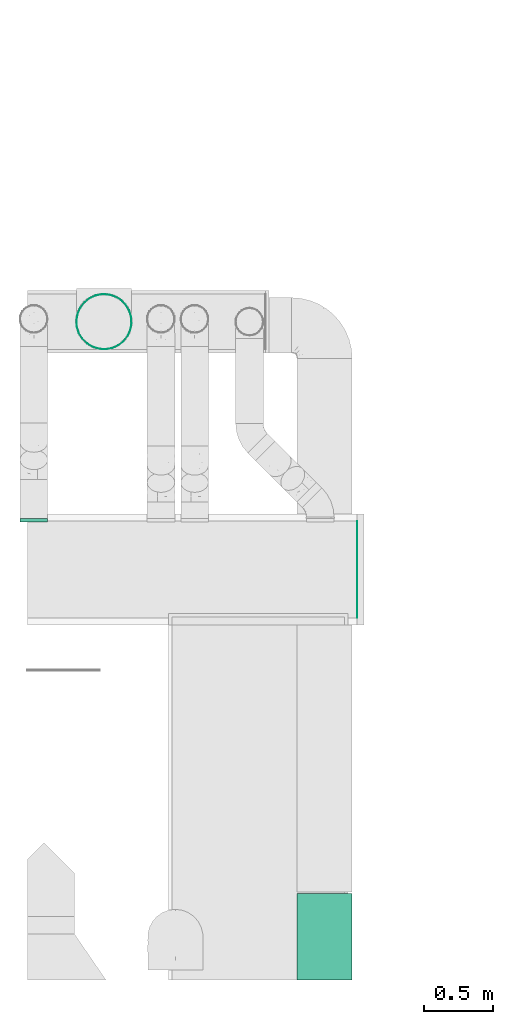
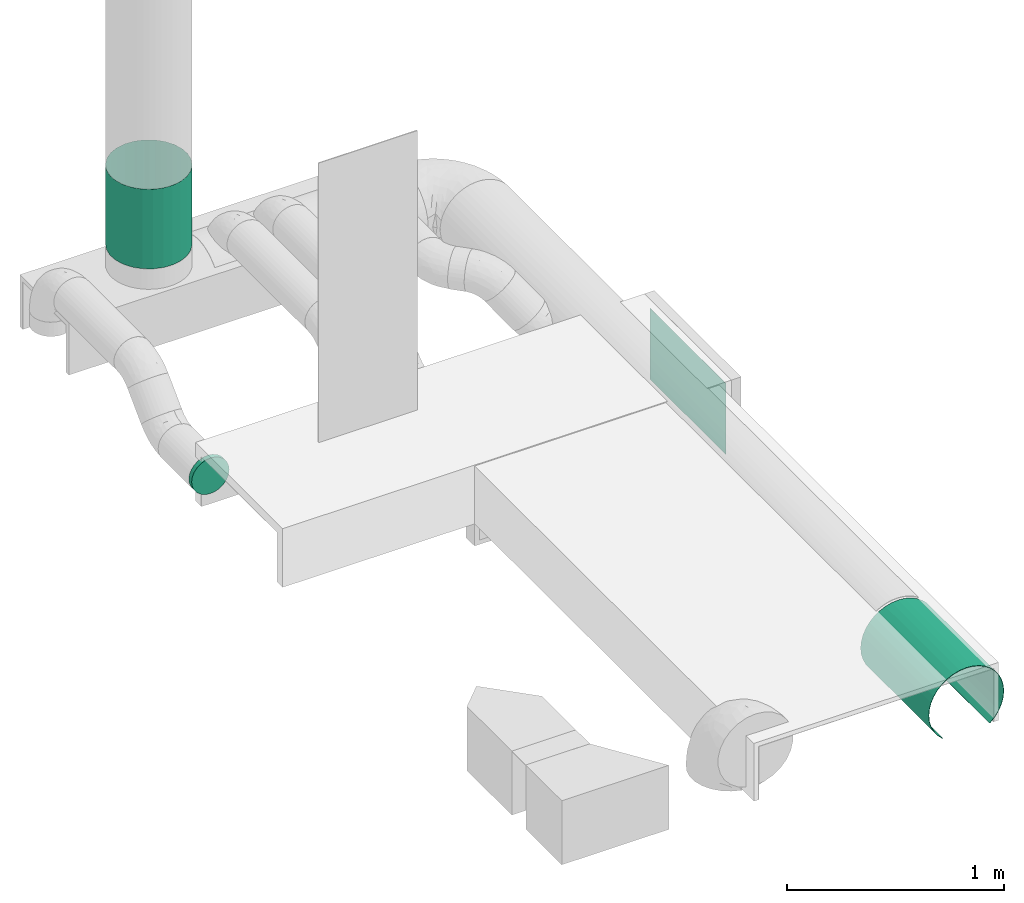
# One storey, part 7 of 9: 2 flow fittings, 1 flow controller, 1 flow segment.
"""IFC2X3 building model written with IfcOpenShell, lengths in millimetres."""

from ifc_helpers import new_model, entity, si_unit, converted_unit, derived_unit, direction, frame, origin_with_axes, place, context, subcontext, project, spatial, open_shell, faceted_brep, surface_model, source, transform, mapped, type_object, element, save


model = new_model("IFC2X3")

# Units and contexts
model_context = context("Model", 3, precision=0.01, world=frame((0.0, 4.29681676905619e-09, 0.0)), true_north=direction((4.01073788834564e-13, 1.0)))
plan_context = context("Plan", 3, precision=0.01, world=frame((0.0, 4.29681676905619e-09, 0.0)), true_north=direction((4.01073788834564e-13, 1.0)))
body_context = subcontext(model_context, "Body", "Model", "MODEL_VIEW")
ifc_project = project(units=[converted_unit("PLANEANGLEUNIT", "DEGREE", entity("IfcPositiveLengthMeasure", 0.0174532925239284), si_unit("PLANEANGLEUNIT", "RADIAN"), dimensions=[0, 0, 0, 0, 0, 0, 0]), si_unit("AREAUNIT", "SQUARE_METRE"), si_unit("LENGTHUNIT", "METRE", prefix="MILLI"), si_unit("MASSUNIT", "GRAM", prefix="KILO"), si_unit("POWERUNIT", "WATT"), si_unit("PRESSUREUNIT", "PASCAL"), si_unit("FORCEUNIT", "NEWTON", prefix="KILO"), si_unit("ELECTRICVOLTAGEUNIT", "VOLT"), si_unit("ELECTRICCURRENTUNIT", "AMPERE"), si_unit("THERMODYNAMICTEMPERATUREUNIT", "DEGREE_CELSIUS"), si_unit("TIMEUNIT", "SECOND"), si_unit("VOLUMEUNIT", "CUBIC_METRE"), derived_unit("LINEARVELOCITYUNIT", [(si_unit("LENGTHUNIT", "METRE"), 1), (si_unit("TIMEUNIT", "SECOND"), -1)]), derived_unit("VOLUMETRICFLOWRATEUNIT", [(si_unit("VOLUMEUNIT", "CUBIC_METRE"), 1), (si_unit("TIMEUNIT", "SECOND"), -1)]), derived_unit("THERMALTRANSMITTANCEUNIT", [(si_unit("POWERUNIT", "WATT"), 1), (si_unit("THERMODYNAMICTEMPERATUREUNIT", "KELVIN"), -1), (si_unit("AREAUNIT", "SQUARE_METRE"), -1)]), derived_unit("SOUNDPRESSUREUNIT", [(si_unit("PRESSUREUNIT", "PASCAL"), 1)])], contexts=[model_context, plan_context])

# Site, building, storey
site_placement = place(None, frame((0.0, -4.29681676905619e-09, 0.0), z_axis=(0.0, 0.0, 1.0), x_axis=(1.0, 0.0, 0.0)))
site = spatial("IfcSite", under=ifc_project, at=site_placement, Name="ENGM", CompositionType="ELEMENT")
building_placement = place(site_placement, frame((0.0, 4.29681676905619e-09, 0.0), z_axis=(0.0, 0.0, 1.0), x_axis=(1.0, 0.0, 0.0)))
building = spatial("IfcBuilding", under=site, at=building_placement, Name="TH", CompositionType="ELEMENT")
storey_placement = place(building_placement, frame((0.0, 0.0, 205200.0), z_axis=(0.0, 0.0, 1.0), x_axis=(1.0, 0.0, 0.0)))
storey = spatial("IfcBuildingStorey", under=building, at=storey_placement, Name="Nivå D + 1,2 m", CompositionType="ELEMENT", Elevation=205200.0)

# Flow controller
damper_type = type_object("IfcDamperType", Name="IGNIS-C-EI120-400", PredefinedType="FIREDAMPER")
shared_shape_1 = source(origin_with_axes(), body_context, "Body", "SurfaceModel", [
    surface_model("IfcShellBasedSurfaceModel", [(223.5, 70.67275, -186.34875), (223.5, 70.74367, -186.53574), (223.5, 113.32892, -164.18527), (223.5, 113.2153, -164.02069), (223.5, 149.32789, -132.29297), (223.5, 24.02296, -197.84688), (223.5, 24.04707, -198.04542), (223.5, -24.02296, -197.84688), (223.5, 193.70289, -47.74347), (223.5, 199.30001, 0.0), (223.5, 193.5087, -47.69561), (223.5, 199.5, 0.0), (223.5, 176.64848, -92.71227), (223.5, 149.17819, -132.16035), (223.5, 176.47139, -92.61933), (223.5, -24.04707, -198.04542), (223.5, -70.67275, -186.34875), (223.5, -70.74367, -186.53574), (223.5, -113.2153, -164.02069), (223.5, -113.32892, -164.18527), (223.5, -149.17819, -132.16035), (223.5, -149.32789, -132.29297), (223.5, -176.47139, -92.61933), (223.5, -176.64848, -92.71227), (223.5, -193.70289, -47.74347), (223.5, -193.5087, -47.69561), (223.5, -199.30001, 0.0), (223.5, -199.5, 0.0), (223.5, 193.70289, 47.74347), (223.5, 193.5087, 47.69561), (223.5, 176.47139, 92.61933), (223.5, 176.64848, 92.71227), (223.5, 149.17819, 132.16035), (223.5, 149.32789, 132.29297), (223.5, 113.32892, 164.18527), (223.5, 113.2153, 164.02069), (223.5, 70.67275, 186.34875), (223.5, 70.74367, 186.53574), (223.5, 24.02296, 197.84688), (223.5, 24.04707, 198.04542), (223.5, -24.02296, 197.84688), (223.5, -176.47139, 92.61933), (223.5, -149.17819, 132.16035), (223.5, -176.64848, 92.71227), (223.5, -149.32789, 132.29297), (223.5, -193.70289, 47.74347), (223.5, -193.5087, 47.69561), (223.5, -70.67275, 186.34875), (223.5, -24.04707, 198.04542), (223.5, -70.74367, 186.53574), (223.5, -113.32892, 164.18527), (223.5, -113.2153, 164.02069), (-223.5, 70.67275, 186.34875), (-223.5, 70.74367, 186.53574), (-223.5, 113.32892, 164.18527), (-223.5, 113.2153, 164.02069), (-223.5, 149.32789, 132.29297), (-223.5, 24.02296, 197.84688), (-223.5, 24.04707, 198.04542), (-223.5, -24.02296, 197.84688), (-223.5, 193.70289, 47.74347), (-223.5, 199.30001, 0.0), (-223.5, 193.5087, 47.69561), (-223.5, 199.5, 0.0), (-223.5, 176.64848, 92.71227), (-223.5, 149.17819, 132.16035), (-223.5, 176.47139, 92.61933), (-223.5, -24.04707, 198.04542), (-223.5, -70.67275, 186.34875), (-223.5, -70.74367, 186.53574), (-223.5, -113.2153, 164.02069), (-223.5, -113.32892, 164.18527), (-223.5, -149.17819, 132.16035), (-223.5, -149.32789, 132.29297), (-223.5, -176.47139, 92.61933), (-223.5, -176.64848, 92.71227), (-223.5, -193.70289, 47.74347), (-223.5, -193.5087, 47.69561), (-223.5, -199.30001, 0.0), (-223.5, -199.5, 0.0), (-223.5, 193.70289, -47.74347), (-223.5, 193.5087, -47.69561), (-223.5, 176.47139, -92.61933), (-223.5, 176.64848, -92.71227), (-223.5, 149.17819, -132.16035), (-223.5, 149.32789, -132.29297), (-223.5, 113.32892, -164.18527), (-223.5, 113.2153, -164.02069), (-223.5, 70.67275, -186.34875), (-223.5, 70.74367, -186.53574), (-223.5, 24.02296, -197.84688), (-223.5, 24.04707, -198.04542), (-223.5, -24.02296, -197.84688), (-223.5, -176.64848, -92.71227), (-223.5, -176.47139, -92.61933), (-223.5, -149.32789, -132.29297), (-223.5, -149.17819, -132.16035), (-223.5, -193.70289, -47.74347), (-223.5, -193.5087, -47.69561), (-223.5, -70.67275, -186.34875), (-223.5, -24.04707, -198.04542), (-223.5, -70.74367, -186.53574), (-223.5, -113.32892, -164.18527), (-223.5, -113.2153, -164.02069)], [open_shell([[[0, 1, 2]], [[3, 2, 4]], [[0, 2, 3]], [[1, 5, 6]], [[5, 1, 0]], [[6, 5, 7]], [[8, 9, 10]], [[9, 8, 11]], [[8, 10, 12]], [[4, 13, 3]], [[13, 4, 12]], [[12, 14, 13]], [[14, 12, 10]], [[15, 7, 16]], [[7, 15, 6]], [[15, 16, 17]], [[17, 18, 19]], [[18, 17, 16]], [[19, 18, 20]], [[21, 20, 22]], [[20, 21, 19]], [[21, 22, 23]], [[24, 23, 25]], [[25, 26, 24]], [[25, 23, 22]], [[24, 26, 27]], [[11, 28, 29]], [[29, 28, 30]], [[30, 31, 32]], [[31, 30, 28]], [[32, 31, 33]], [[33, 34, 35]], [[35, 34, 36]], [[36, 37, 38]], [[37, 36, 34]], [[38, 39, 40]], [[39, 38, 37]], [[35, 32, 33]], [[41, 42, 43]], [[43, 42, 44]], [[41, 43, 45]], [[27, 46, 45]], [[45, 46, 41]], [[27, 26, 46]], [[47, 40, 48]], [[48, 40, 39]], [[47, 48, 49]], [[42, 50, 44]], [[51, 50, 42]], [[49, 50, 51]], [[47, 49, 51]], [[29, 9, 11]], [[52, 53, 54]], [[55, 54, 56]], [[52, 54, 55]], [[53, 57, 58]], [[57, 53, 52]], [[58, 57, 59]], [[60, 61, 62]], [[61, 60, 63]], [[60, 62, 64]], [[56, 65, 55]], [[65, 56, 66]], [[64, 66, 56]], [[66, 64, 62]], [[67, 59, 68]], [[59, 67, 58]], [[67, 68, 69]], [[69, 70, 71]], [[70, 69, 68]], [[71, 70, 72]], [[73, 72, 74]], [[72, 73, 71]], [[73, 74, 75]], [[76, 75, 77]], [[77, 78, 76]], [[77, 75, 74]], [[76, 78, 79]], [[63, 80, 81]], [[81, 80, 82]], [[82, 83, 84]], [[83, 82, 80]], [[84, 83, 85]], [[85, 86, 87]], [[87, 86, 88]], [[88, 89, 90]], [[89, 88, 86]], [[90, 91, 92]], [[91, 90, 89]], [[87, 84, 85]], [[93, 94, 95]], [[95, 94, 96]], [[94, 93, 97]], [[79, 98, 97]], [[97, 98, 94]], [[79, 78, 98]], [[99, 92, 100]], [[100, 92, 91]], [[99, 100, 101]], [[96, 102, 95]], [[103, 102, 96]], [[101, 102, 103]], [[99, 101, 103]], [[81, 61, 63]], [[27, 79, 97]], [[93, 24, 97]], [[102, 101, 19]], [[21, 95, 102]], [[23, 93, 95]], [[17, 101, 100]], [[97, 24, 27]], [[93, 23, 24]], [[95, 21, 23]], [[102, 19, 21]], [[17, 19, 101]], [[100, 15, 17]], [[100, 91, 15]], [[6, 91, 89]], [[86, 1, 89]], [[83, 80, 12]], [[4, 85, 83]], [[2, 86, 85]], [[8, 80, 63]], [[89, 1, 6]], [[86, 2, 1]], [[85, 4, 2]], [[83, 12, 4]], [[8, 12, 80]], [[63, 11, 8]], [[91, 6, 15]], [[31, 60, 64]], [[63, 60, 28]], [[34, 54, 53]], [[33, 56, 54]], [[64, 56, 31]], [[37, 53, 58]], [[28, 11, 63]], [[28, 60, 31]], [[31, 56, 33]], [[54, 34, 33]], [[37, 34, 53]], [[39, 37, 58]], [[58, 67, 39]], [[48, 67, 69]], [[71, 49, 69]], [[75, 76, 43]], [[44, 73, 75]], [[50, 71, 73]], [[45, 76, 79]], [[69, 49, 48]], [[71, 50, 49]], [[73, 44, 50]], [[75, 43, 44]], [[45, 43, 76]], [[79, 27, 45]], [[67, 48, 39]], [[98, 78, 26]], [[98, 25, 94]], [[18, 99, 103]], [[103, 96, 20]], [[96, 94, 22]], [[92, 99, 16]], [[26, 25, 98]], [[25, 22, 94]], [[22, 20, 96]], [[20, 18, 103]], [[99, 18, 16]], [[16, 7, 92]], [[7, 90, 92]], [[88, 90, 5]], [[88, 0, 87]], [[14, 81, 82]], [[82, 84, 13]], [[84, 87, 3]], [[61, 81, 10]], [[5, 0, 88]], [[0, 3, 87]], [[3, 13, 84]], [[13, 14, 82]], [[81, 14, 10]], [[10, 9, 61]], [[7, 5, 90]], [[66, 62, 30]], [[29, 62, 61]], [[52, 55, 35]], [[55, 65, 32]], [[30, 65, 66]], [[57, 52, 36]], [[61, 9, 29]], [[30, 62, 29]], [[32, 65, 30]], [[32, 35, 55]], [[52, 35, 36]], [[57, 36, 38]], [[38, 59, 57]], [[68, 59, 40]], [[68, 47, 70]], [[41, 77, 74]], [[74, 72, 42]], [[72, 70, 51]], [[78, 77, 46]], [[40, 47, 68]], [[47, 51, 70]], [[51, 42, 72]], [[42, 41, 74]], [[77, 41, 46]], [[46, 26, 78]], [[38, 40, 59]]])]),
])
flow_controller_placement = place(storey_placement, frame((895666.49216, 480797.12038, 4629.27221), z_axis=(-0.707106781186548, -0.707106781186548, 0.0), x_axis=(0.0, 0.0, 1.0)))
element("IfcFlowController", 1, at=flow_controller_placement, inside=storey, type_object=damper_type, Name="IGNIS-C-EI120-400", context=body_context, shape_type="MappedRepresentation", body=[
    mapped(shared_shape_1, transform((0.0, 0.0, 0.0), scale=1.0)),
])

# Flow fittings
duct_fitting_type_1 = type_object("IfcDuctFittingType", Name="magicirc_tapoutlet_001", PredefinedType="CONNECTOR")
shared_shape_2 = source(origin_with_axes(), body_context, "Body", "SurfaceModel", [
    surface_model("IfcShellBasedSurfaceModel", [(20.0, 25.8819, 96.59259), (20.0, 0.0, 100.0), (20.0, -25.8819, 96.59259), (0.0, -50.0, 86.60254), (20.0, -50.0, 86.60254), (0.0, -25.8819, 96.59259), (0.0, -70.71068, 70.71068), (20.0, 70.71068, 70.71068), (0.0, 50.0, 86.60254), (20.0, 50.0, 86.60254), (0.0, 86.60254, 50.0), (20.0, 86.60254, 50.0), (20.0, 96.59259, 25.8819), (0.0, 96.59259, 25.8819), (20.0, 100.0, 0.0), (0.0, 70.71068, 70.71068), (0.0, 100.0, 0.0), (0.0, 70.71068, -70.71068), (20.0, 50.0, -86.60254), (0.0, 50.0, -86.60254), (20.0, -70.71068, -70.71068), (0.0, -50.0, -86.60254), (20.0, -50.0, -86.60254), (20.0, -86.60254, -50.0), (0.0, -70.71068, -70.71068), (0.0, -96.59259, -25.8819), (0.0, -86.60254, -50.0), (20.0, -96.59259, -25.8819), (-6.096, 0.0, -100.0), (-6.096, -25.8819, -96.59259), (-6.096, 25.8819, -96.59259), (-6.096, 96.59259, 25.8819), (-6.096, 50.0, -86.60254), (-6.096, 86.60254, -50.0), (-6.096, 70.71068, -70.71068), (-6.096, -100.0, 0.0), (-6.096, -96.59259, 25.8819), (-6.096, -70.71068, -70.71068), (-6.096, -50.0, -86.60254), (-6.096, -96.59259, -25.8819), (-6.096, -86.60254, -50.0), (-6.096, 96.59259, -25.8819), (-6.096, 86.60254, 50.0), (-6.096, 70.71068, 70.71068), (-6.096, 50.0, 86.60254), (-6.096, 25.8819, 96.59259), (-6.096, 0.0, 100.0), (-6.096, -86.60254, 50.0), (-6.096, -70.71068, 70.71068), (-6.096, -25.8819, 96.59259), (-6.096, -50.0, 86.60254), (-6.096, 100.0, 0.0), (0.0, 0.0, 100.0), (0.0, 25.8819, 96.59259), (0.0, 96.59259, -25.8819), (0.0, 86.60254, -50.0), (0.0, 25.8819, -96.59259), (0.0, 0.0, -100.0), (0.0, -25.8819, -96.59259), (0.0, -100.0, 0.0), (0.0, -96.59259, 25.8819), (0.0, -86.60254, 50.0), (20.0, 25.8819, -96.59259), (20.0, 0.0, -100.0), (20.0, 70.71068, -70.71068), (20.0, 86.60254, -50.0), (20.0, -96.59259, 25.8819), (20.0, -25.8819, -96.59259), (20.0, -100.0, 0.0), (20.0, 96.59259, -25.8819), (20.0, -70.71068, 70.71068), (20.0, -86.60254, 50.0)], [open_shell([[[0, 1, 2]], [[3, 4, 2]], [[5, 3, 2]], [[6, 4, 3]], [[7, 8, 9]], [[10, 11, 12]], [[13, 12, 14]], [[13, 10, 12]], [[15, 11, 10]], [[16, 13, 14]], [[17, 18, 19]], [[20, 21, 22]], [[23, 24, 20]], [[25, 26, 27]], [[24, 23, 26]], [[28, 29, 30]], [[30, 31, 32]], [[33, 34, 31]], [[31, 34, 32]], [[30, 35, 36]], [[37, 35, 38]], [[30, 29, 38]], [[39, 35, 40]], [[37, 40, 35]], [[38, 35, 30]], [[41, 33, 31]], [[42, 31, 30]], [[30, 43, 42]], [[44, 30, 45]], [[44, 43, 30]], [[46, 45, 30]], [[47, 48, 30]], [[30, 36, 47]], [[49, 46, 50]], [[30, 48, 50]], [[50, 46, 30]], [[51, 41, 31]], [[46, 52, 53]], [[45, 53, 8]], [[46, 53, 45]], [[44, 15, 43]], [[44, 45, 8]], [[15, 44, 8]], [[42, 10, 13]], [[31, 13, 16]], [[43, 10, 42]], [[31, 42, 13]], [[51, 31, 16]], [[10, 43, 15]], [[51, 16, 54]], [[41, 54, 55]], [[51, 54, 41]], [[33, 17, 34]], [[33, 41, 55]], [[17, 33, 55]], [[56, 57, 30]], [[19, 56, 32]], [[34, 19, 32]], [[28, 30, 57]], [[56, 30, 32]], [[19, 34, 17]], [[28, 57, 58]], [[29, 58, 21]], [[28, 58, 29]], [[38, 24, 37]], [[38, 29, 21]], [[24, 38, 21]], [[40, 26, 25]], [[39, 25, 59]], [[37, 26, 40]], [[39, 40, 25]], [[35, 39, 59]], [[26, 37, 24]], [[35, 59, 60]], [[36, 60, 61]], [[35, 60, 36]], [[47, 6, 48]], [[47, 36, 61]], [[6, 47, 61]], [[50, 3, 5]], [[49, 5, 52]], [[48, 3, 50]], [[49, 50, 5]], [[46, 49, 52]], [[3, 48, 6]], [[62, 14, 63]], [[18, 14, 62]], [[14, 64, 65]], [[14, 18, 64]], [[20, 63, 66]], [[63, 22, 67]], [[63, 20, 22]], [[23, 66, 27]], [[66, 23, 20]], [[68, 27, 66]], [[14, 65, 69]], [[12, 11, 63]], [[11, 7, 63]], [[0, 63, 9]], [[63, 7, 9]], [[63, 0, 2]], [[63, 70, 71]], [[66, 63, 71]], [[63, 4, 70]], [[2, 4, 63]], [[12, 63, 14]], [[52, 1, 0]], [[53, 0, 9]], [[52, 0, 53]], [[8, 7, 15]], [[8, 53, 9]], [[11, 15, 7]], [[16, 14, 69]], [[54, 69, 65]], [[16, 69, 54]], [[55, 64, 17]], [[55, 54, 65]], [[64, 55, 65]], [[62, 63, 56]], [[18, 62, 19]], [[57, 56, 63]], [[62, 56, 19]], [[18, 17, 64]], [[57, 63, 67]], [[58, 67, 22]], [[57, 67, 58]], [[21, 20, 24]], [[21, 58, 22]], [[26, 23, 27]], [[25, 27, 68]], [[59, 25, 68]], [[59, 68, 66]], [[60, 66, 71]], [[59, 66, 60]], [[61, 70, 6]], [[61, 60, 71]], [[70, 61, 71]], [[5, 2, 1]], [[52, 5, 1]], [[4, 6, 70]], [[65, 69, 14]], [[2, 63, 0]], [[63, 71, 66]], [[70, 71, 63]], [[70, 63, 4]], [[63, 14, 12]]])]),
])
flow_fitting_1_placement = place(storey_placement, frame((895158.11568, 479355.09136, 4160.0), z_axis=(0.0, 0.0, 1.0), x_axis=(0.0, 1.0, 0.0)))
element("IfcFlowFitting", 2, at=flow_fitting_1_placement, inside=storey, type_object=duct_fitting_type_1, Name="magicirc_tapoutlet_001", context=body_context, shape_type="MappedRepresentation", body=[
    mapped(shared_shape_2, transform((0.0, 0.0, 0.0), scale=1.0)),
])
duct_fitting_type_2 = type_object("IfcDuctFittingType", Name="LEPR", PredefinedType="OBSTRUCTION")
shared_shape_3 = source(origin_with_axes(), body_context, "Body", "SurfaceModel", [
    surface_model("IfcShellBasedSurfaceModel", [(0.0, -350.0, 200.0), (0.0, 350.0, -200.0), (0.0, -350.0, -200.0), (0.0, 350.0, 200.0), (0.8, -350.0, -200.0), (0.8, 350.0, -200.0), (0.8, -350.0, 200.0), (0.8, 350.0, 200.0)], [open_shell([[[0, 1, 2]], [[1, 0, 3]], [[4, 5, 6]], [[7, 6, 5]], [[1, 3, 7]], [[7, 5, 1]], [[2, 1, 5]], [[5, 4, 2]], [[0, 2, 4]], [[4, 6, 0]], [[3, 0, 6]], [[6, 7, 3]]])]),
])
flow_fitting_2_placement = place(storey_placement, frame((897497.4673, 479005.09136, 4080.0), z_axis=(0.0, 0.0, 1.0), x_axis=(1.0, 0.0, 0.0)))
element("IfcFlowFitting", 3, at=flow_fitting_2_placement, inside=storey, type_object=duct_fitting_type_2, Name="LEPR", context=body_context, shape_type="MappedRepresentation", body=[
    mapped(shared_shape_3, transform((0.0, 0.0, 0.0), scale=1.0)),
])

# Flow segment
duct_segment_type = type_object("IfcDuctSegmentType", Name="2 - Spiro kanaler, Forsinket stål", PredefinedType="RIGIDSEGMENT")
flow_segment_placement = place(storey_placement, frame((897261.87521, 476662.12038, 4155.07902), z_axis=(0.0, 0.0, 1.0), x_axis=(0.0, -1.0, 0.0)))
element("IfcFlowSegment", 4, at=flow_segment_placement, inside=storey, type_object=duct_segment_type, Name="2 - Spiro kanaler, Forsinket stål", context=body_context, shape_type="Brep", body=[
    faceted_brep([(627.443459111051, 198.0, 0.0), (627.443459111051, 194.991935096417, -34.3823391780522), (0.0, 194.991935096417, -34.3823391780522), (0.0, 198.0, 0.0), (627.443459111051, 186.05913891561, -67.7199883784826), (0.0, 186.05913891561, -67.7199883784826), (627.443459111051, 171.473029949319, -99.0000000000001), (0.0, 171.473029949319, -99.0000000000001), (627.443459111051, 151.676799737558, -127.271946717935), (0.0, 151.676799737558, -127.271946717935), (627.443459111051, 127.271946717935, -151.676799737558), (0.0, 127.271946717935, -151.676799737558), (627.443459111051, 123.869726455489, -155.079020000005), (0.0, 122.413072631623, -155.079020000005), (0.0, -122.413072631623, -155.079020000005), (627.443459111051, -122.413072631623, -155.079020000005), (627.443459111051, -127.271946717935, -151.676799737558), (0.0, -127.271946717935, -151.676799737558), (627.443459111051, -151.676799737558, -127.271946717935), (0.0, -151.676799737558, -127.271946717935), (627.443459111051, -171.473029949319, -98.9999999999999), (0.0, -171.473029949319, -98.9999999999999), (627.443459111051, -186.05913891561, -67.7199883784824), (0.0, -186.05913891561, -67.7199883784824), (627.443459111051, -194.991935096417, -34.3823391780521), (0.0, -194.991935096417, -34.3823391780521), (627.443459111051, -198.0, 2.42480066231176e-14), (0.0, -198.0, 2.42480066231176e-14), (627.443459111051, -194.991935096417, 34.3823391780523), (0.0, -194.991935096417, 34.3823391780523), (627.443459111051, -186.05913891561, 67.7199883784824), (0.0, -186.05913891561, 67.7199883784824), (627.443459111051, -171.473029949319, 99.0), (0.0, -171.473029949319, 99.0), (627.443459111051, -151.676799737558, 127.271946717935), (0.0, -151.676799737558, 127.271946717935), (627.443459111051, -127.271946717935, 151.676799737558), (0.0, -127.271946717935, 151.676799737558), (627.443459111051, -99.0, 171.473029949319), (0.0, -99.0, 171.473029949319), (627.443459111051, -67.7199883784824, 186.05913891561), (0.0, -67.7199883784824, 186.05913891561), (627.443459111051, -34.3823391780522, 194.991935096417), (0.0, -34.3823391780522, 194.991935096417), (627.443459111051, 1.21240033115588e-14, 198.0), (0.0, 1.21240033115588e-14, 198.0), (627.443459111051, 34.3823391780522, 194.991935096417), (0.0, 34.3823391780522, 194.991935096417), (627.443459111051, 67.7199883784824, 186.05913891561), (0.0, 67.7199883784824, 186.05913891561), (627.443459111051, 99.0, 171.473029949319), (0.0, 99.0, 171.473029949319), (627.443459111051, 127.271946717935, 151.676799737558), (0.0, 127.271946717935, 151.676799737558), (627.443459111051, 151.676799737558, 127.271946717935), (0.0, 151.676799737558, 127.271946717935), (627.443459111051, 171.473029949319, 99.0), (0.0, 171.473029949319, 99.0), (627.443459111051, 186.05913891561, 67.7199883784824), (0.0, 186.05913891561, 67.7199883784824), (627.443459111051, 194.991935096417, 34.3823391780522), (0.0, 194.991935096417, 34.3823391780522), (627.443459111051, 196.961550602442, -34.7296355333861), (627.443459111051, 200.0, 0.0), (0.0, 200.0, 0.0), (0.0, 196.961550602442, -34.7296355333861), (627.443459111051, 196.961550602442, 34.7296355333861), (0.0, 196.961550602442, 34.7296355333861), (627.443459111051, 187.938524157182, 68.4040286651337), (0.0, 187.938524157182, 68.4040286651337), (627.443459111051, 173.205080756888, 100.0), (0.0, 173.205080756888, 100.0), (627.443459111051, 153.208888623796, 128.557521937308), (0.0, 153.208888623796, 128.557521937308), (627.443459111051, 128.557521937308, 153.208888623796), (0.0, 128.557521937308, 153.208888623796), (627.443459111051, 100.0, 173.205080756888), (0.0, 100.0, 173.205080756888), (627.443459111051, 68.4040286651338, 187.938524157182), (0.0, 68.4040286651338, 187.938524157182), (627.443459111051, 34.7296355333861, 196.961550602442), (0.0, 34.7296355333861, 196.961550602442), (627.443459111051, 1.22464679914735e-14, 200.0), (0.0, 1.22464679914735e-14, 200.0), (627.443459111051, -34.7296355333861, 196.961550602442), (0.0, -34.7296355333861, 196.961550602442), (627.443459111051, -68.4040286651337, 187.938524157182), (0.0, -68.4040286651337, 187.938524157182), (627.443459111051, -100.0, 173.205080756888), (0.0, -100.0, 173.205080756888), (627.443459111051, -128.557521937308, 153.208888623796), (0.0, -128.557521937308, 153.208888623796), (627.443459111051, -153.208888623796, 128.557521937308), (0.0, -153.208888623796, 128.557521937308), (627.443459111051, -173.205080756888, 100.0), (0.0, -173.205080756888, 100.0), (627.443459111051, -187.938524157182, 68.4040286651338), (0.0, -187.938524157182, 68.4040286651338), (627.443459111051, -196.961550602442, 34.7296355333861), (0.0, -196.961550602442, 34.7296355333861), (627.443459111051, -200.0, 2.44929359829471e-14), (0.0, -200.0, 2.44929359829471e-14), (627.443459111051, -196.961550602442, -34.729635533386), (0.0, -196.961550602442, -34.729635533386), (627.443459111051, -187.938524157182, -68.4040286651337), (0.0, -187.938524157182, -68.4040286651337), (627.443459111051, -173.205080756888, -99.9999999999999), (0.0, -173.205080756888, -99.9999999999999), (627.443459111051, -153.208888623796, -128.557521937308), (0.0, -153.208888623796, -128.557521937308), (627.443459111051, -128.557521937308, -153.208888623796), (0.0, -128.557521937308, -153.208888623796), (627.443459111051, -126.687390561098, -155.079020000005), (0.0, -125.886697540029, -155.079020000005), (0.0, 125.886697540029, -155.079020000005), (627.443459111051, 125.886697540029, -155.079020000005), (627.443459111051, 128.557521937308, -153.208888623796), (0.0, 128.557521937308, -153.208888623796), (627.443459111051, 153.208888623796, -128.557521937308), (0.0, 153.208888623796, -128.557521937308), (627.443459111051, 173.205080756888, -100.0), (0.0, 173.205080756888, -100.0), (627.443459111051, 187.938524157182, -68.4040286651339), (0.0, 187.938524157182, -68.4040286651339), (627.443459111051, -125.886697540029, -155.079020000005), (627.443459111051, 122.413072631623, -155.079020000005)], [[[0, 1, 2, 3]], [[1, 4, 5, 2]], [[4, 6, 7, 5]], [[6, 8, 9, 7]], [[8, 10, 11, 9]], [[10, 12, 13, 11]], [[14, 15, 16, 17]], [[16, 18, 19, 17]], [[18, 20, 21, 19]], [[20, 22, 23, 21]], [[22, 24, 25, 23]], [[24, 26, 27, 25]], [[26, 28, 29, 27]], [[28, 30, 31, 29]], [[30, 32, 33, 31]], [[32, 34, 35, 33]], [[34, 36, 37, 35]], [[36, 38, 39, 37]], [[38, 40, 41, 39]], [[40, 42, 43, 41]], [[42, 44, 45, 43]], [[44, 46, 47, 45]], [[46, 48, 49, 47]], [[48, 50, 51, 49]], [[50, 52, 53, 51]], [[52, 54, 55, 53]], [[54, 56, 57, 55]], [[56, 58, 59, 57]], [[58, 60, 61, 59]], [[60, 0, 3, 61]], [[62, 63, 64, 65]], [[63, 66, 67, 64]], [[66, 68, 69, 67]], [[68, 70, 71, 69]], [[70, 72, 73, 71]], [[72, 74, 75, 73]], [[74, 76, 77, 75]], [[76, 78, 79, 77]], [[78, 80, 81, 79]], [[80, 82, 83, 81]], [[82, 84, 85, 83]], [[84, 86, 87, 85]], [[86, 88, 89, 87]], [[88, 90, 91, 89]], [[90, 92, 93, 91]], [[92, 94, 95, 93]], [[94, 96, 97, 95]], [[96, 98, 99, 97]], [[98, 100, 101, 99]], [[100, 102, 103, 101]], [[102, 104, 105, 103]], [[104, 106, 107, 105]], [[106, 108, 109, 107]], [[108, 110, 111, 109]], [[110, 112, 113, 111]], [[114, 115, 116, 117]], [[116, 118, 119, 117]], [[118, 120, 121, 119]], [[120, 122, 123, 121]], [[122, 62, 65, 123]], [[113, 14, 17, 19, 21, 23, 25, 27, 29, 31, 33, 35, 37, 39, 41, 43, 45, 47, 49, 51, 53, 55, 57, 59, 61, 3, 2, 5, 7, 9, 11, 13, 114, 117, 119, 121, 123, 65, 64, 67, 69, 71, 73, 75, 77, 79, 81, 83, 85, 87, 89, 91, 93, 95, 97, 99, 101, 103, 105, 107, 109, 111]], [[124, 110, 108, 106, 104, 102, 100, 98, 96, 94, 92, 90, 88, 86, 84, 82, 80, 78, 76, 74, 72, 70, 68, 66, 63, 62, 122, 120, 118, 116, 115, 125, 10, 8, 6, 4, 1, 0, 60, 58, 56, 54, 52, 50, 48, 46, 44, 42, 40, 38, 36, 34, 32, 30, 28, 26, 24, 22, 20, 18, 16, 15]], [[115, 114, 13, 125]], [[15, 14, 113, 124]]], orient=[[False], [False], [False], [False], [False], [False], [False], [False], [False], [False], [False], [False], [False], [False], [False], [False], [False], [False], [False], [False], [False], [False], [False], [False], [False], [False], [False], [False], [False], [False], [False], [False], [False], [False], [False], [False], [False], [False], [False], [False], [False], [False], [False], [False], [False], [False], [False], [False], [False], [False], [False], [False], [False], [False], [False], [False], [False], [False], [False], [False], [False], [False], [False], [False]]),
])

save(model, "model.ifc")
